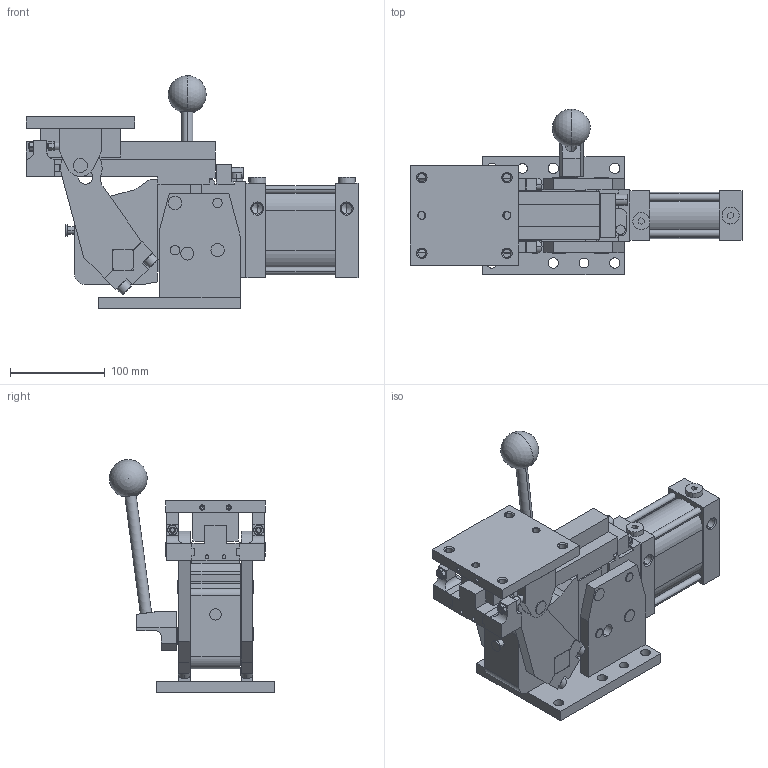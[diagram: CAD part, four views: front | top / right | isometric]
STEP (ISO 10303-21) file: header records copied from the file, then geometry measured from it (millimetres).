
FILE_DESCRIPTION (( 'STEP AP214' ), '1' );
FILE_NAME ('slcpm63_90_xx_lb_f_x.STEP', '2019-09-19T12:56:09', ( '' ), ( '' ), 'SwSTEP 2.0', 'SolidWorks 2019', '' );
FILE_SCHEMA (( 'AUTOMOTIVE_DESIGN' ));
Length unit declared in the file: millimetre
Products named in the file (9): staffa_reazione_destra_slcp63_dx; blocchetto_VEP_0; slcpm63_90_xx_lb_f_x; tappo cil G1_4 din908_rondella rame; leva_slcpm63; slcpm63_90_xx_x_x; leva_slcp63; piastra_superiore_slcp63; staffa_reazione_sinistra_slcp63_sx
Assembly tree (9 placements, depth 2):
  slcpm63_90_xx_lb_f_x
    slcpm63_90_xx_x_x
    piastra_superiore_slcp63
    leva_slcp63
    blocchetto_VEP_0
    staffa_reazione_destra_slcp63_dx
    staffa_reazione_sinistra_slcp63_sx
    tappo cil G1_4 din908_rondella rame  x2
    leva_slcpm63
Bounding box: 351 x 174.8 x 246.1 mm (x, y, z)
Volume: 2760352.3 mm3; surface area: 366140.4 mm2
Topology: 20 solids, 34 shells, 800 faces, 1918 edges, 1177 vertices
Faces by surface type: plane 360, cylinder 260, cone 168, torus 10, sphere 2
Entity records: 23718 total; most frequent: CARTESIAN_POINT 4167, DIRECTION 3993, ORIENTED_EDGE 3646, EDGE_CURVE 1823, AXIS2_PLACEMENT_3D 1452, VERTEX_POINT 1154, VECTOR 1089, LINE 1089
